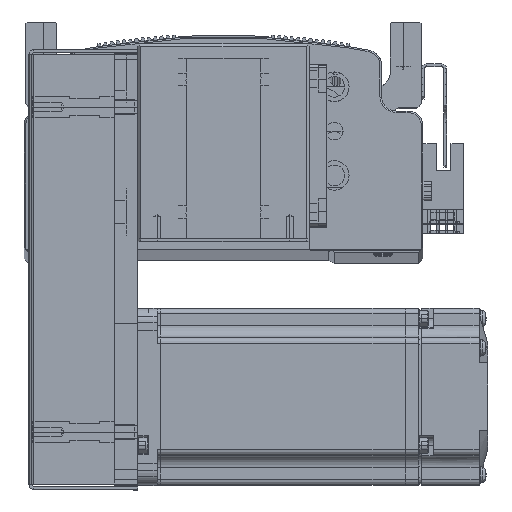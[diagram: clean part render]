
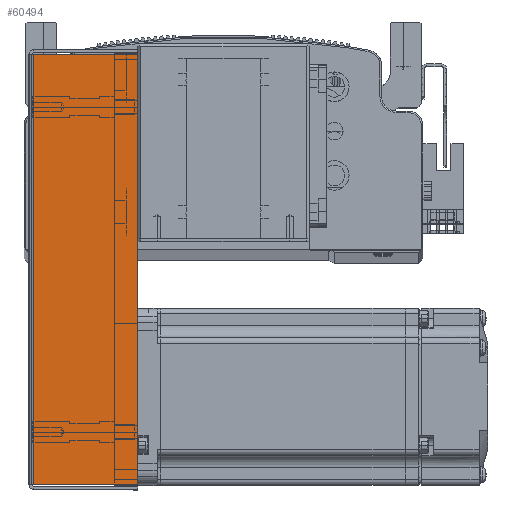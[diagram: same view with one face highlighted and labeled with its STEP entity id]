
A CAD part, top view. The second image highlights one B-rep face of the part: STEP entity #60494.
In plain terms, the highlighted planar face has unit normal (0, 0, 1) as drawn and (0, 0, -1) by its records, which use the part's own axes.
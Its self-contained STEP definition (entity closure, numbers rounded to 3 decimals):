
#23499 = EDGE_LOOP ( 'NONE', ( #46632, #52632, #49287, #45411 ) ) ;
#24541 = VECTOR ( 'NONE', #30148, 1000. ) ;
#24556 = LINE ( 'NONE', #30149, #24541 ) ;
#24613 = VECTOR ( 'NONE', #30255, 1000. ) ;
#24634 = LINE ( 'NONE', #30270, #24613 ) ;
#24888 = VECTOR ( 'NONE', #30462, 1000. ) ;
#24895 = VECTOR ( 'NONE', #30454, 1000. ) ;
#24896 = LINE ( 'NONE', #30456, #24888 ) ;
#24899 = LINE ( 'NONE', #30445, #24895 ) ;
#29150 = CARTESIAN_POINT ( 'NONE',  ( 72.793, 0.737, -34.5 ) ) ;
#29152 = CARTESIAN_POINT ( 'NONE',  ( 72.793, 36., -34.5 ) ) ;
#29201 = CARTESIAN_POINT ( 'NONE',  ( -72.793, 36., -34.5 ) ) ;
#29254 = CARTESIAN_POINT ( 'NONE',  ( -72.793, 0.737, -34.5 ) ) ;
#30148 = DIRECTION ( 'NONE',  ( 1., 0., 0. ) ) ;
#30149 = CARTESIAN_POINT ( 'NONE',  ( 74.5, 0.737, -34.5 ) ) ;
#30255 = DIRECTION ( 'NONE',  ( 0., 1., 0. ) ) ;
#30270 = CARTESIAN_POINT ( 'NONE',  ( -72.793, 0., -34.5 ) ) ;
#30445 = CARTESIAN_POINT ( 'NONE',  ( 72.793, 0., -34.5 ) ) ;
#30454 = DIRECTION ( 'NONE',  ( 0., 1., 0. ) ) ;
#30456 = CARTESIAN_POINT ( 'NONE',  ( 0., 36., -34.5 ) ) ;
#30462 = DIRECTION ( 'NONE',  ( 1., 0., 0. ) ) ;
#31217 = FACE_OUTER_BOUND ( 'NONE', #23499, .T. ) ;
#45411 = ORIENTED_EDGE ( 'NONE', *, *, #87764, .F. ) ;
#45978 = AXIS2_PLACEMENT_3D ( 'NONE', #75344, #75322, #75252 ) ;
#46632 = ORIENTED_EDGE ( 'NONE', *, *, #87665, .F. ) ;
#49287 = ORIENTED_EDGE ( 'NONE', *, *, #87768, .T. ) ;
#52632 = ORIENTED_EDGE ( 'NONE', *, *, #87696, .T. ) ;
#60494 = ADVANCED_FACE ( 'NONE', ( #31217 ), #75256, .F. ) ;
#75252 = DIRECTION ( 'NONE',  ( 0., -1., 0. ) ) ;
#75256 = PLANE ( 'NONE',  #45978 ) ;
#75322 = DIRECTION ( 'NONE',  ( 0., 0., 1. ) ) ;
#75344 = CARTESIAN_POINT ( 'NONE',  ( 0., 0., -34.5 ) ) ;
#86419 = VERTEX_POINT ( 'NONE', #29150 ) ;
#86461 = VERTEX_POINT ( 'NONE', #29254 ) ;
#86469 = VERTEX_POINT ( 'NONE', #29201 ) ;
#86477 = VERTEX_POINT ( 'NONE', #29152 ) ;
#87665 = EDGE_CURVE ( 'NONE', #86461, #86419, #24556, .T. ) ;
#87696 = EDGE_CURVE ( 'NONE', #86461, #86469, #24634, .T. ) ;
#87764 = EDGE_CURVE ( 'NONE', #86419, #86477, #24899, .T. ) ;
#87768 = EDGE_CURVE ( 'NONE', #86469, #86477, #24896, .T. ) ;
